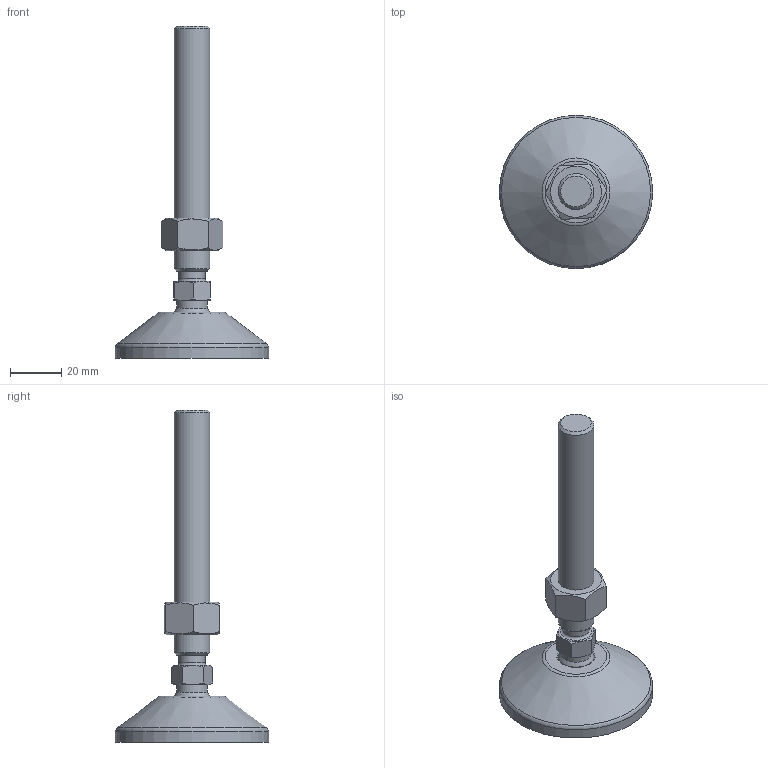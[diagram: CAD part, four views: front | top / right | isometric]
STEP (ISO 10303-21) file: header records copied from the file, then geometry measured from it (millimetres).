
FILE_DESCRIPTION(('STEP AP203'), '1');
FILE_NAME('栖闉罻', '', ('UNSPECIFIED'), ('UNSPECIFIED'), 'C3D Converter', 'C3D Toolkit', '');
FILE_SCHEMA(('CONFIG_CONTROL_DESIGN'));
Length unit declared in the file: millimetre
Products named in the file (4): A00020.114100; A00015.1060
Assembly tree (3 placements, depth 3):
  (unnamed)
    A00020.114100
      (unnamed)
    A00015.1060
Bounding box: 60 x 60 x 129.97 mm (x, y, z)
Volume: 41429.6 mm3; surface area: 17352.8 mm2
Topology: 3 solids, 3 shells, 165 faces, 428 edges, 282 vertices
Faces by surface type: plane 87, cylinder 34, cone 21, torus 21, sphere 2
Full cylindrical faces by diameter (mm): 4 x8, 10.2 x1, 11.835 x1, 12 x1, 14 x1, 14.3 x1, 15 x2, 15.5 x1, 50.5 x1, 60 x1
Entity records: 8739 total; most frequent: CARTESIAN_POINT 3319, DIRECTION 812, ORIENTED_EDGE 786, EDGE_CURVE 393, AXIS2_PLACEMENT_3D 336, VERTEX_POINT 281, EDGE_LOOP 214, FACE_BOUND 174
